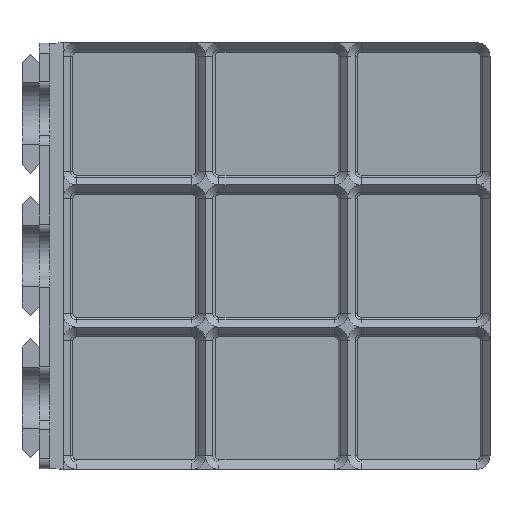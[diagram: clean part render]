
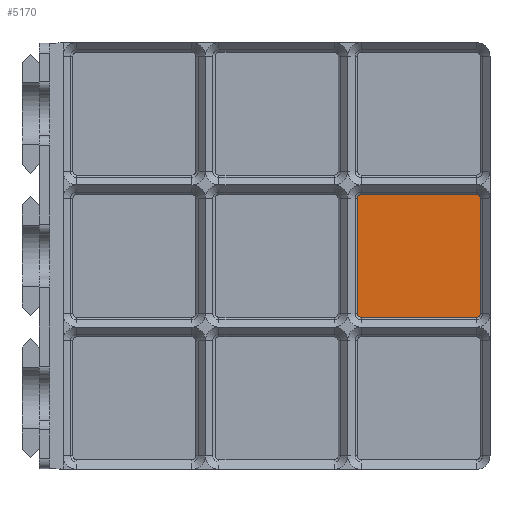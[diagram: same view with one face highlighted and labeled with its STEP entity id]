
A CAD part, top view. The second image highlights one B-rep face of the part: STEP entity #5170.
In plain terms, the highlighted planar face has unit normal (0, 0, 1).
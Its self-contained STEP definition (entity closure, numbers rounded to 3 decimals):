
#96=PLANE('',#5542);
#288=FACE_OUTER_BOUND('',#636,.T.);
#636=EDGE_LOOP('',(#3560,#3561,#3562,#3563,#3564,#3565,#3566,#3567));
#999=LINE('',#7835,#1564);
#1000=LINE('',#7839,#1565);
#1001=LINE('',#7843,#1566);
#1002=LINE('',#7846,#1567);
#1564=VECTOR('',#6144,10.);
#1565=VECTOR('',#6147,10.);
#1566=VECTOR('',#6150,10.);
#1567=VECTOR('',#6153,10.);
#2119=CIRCLE('',#5543,1.154);
#2120=CIRCLE('',#5544,1.154);
#2121=CIRCLE('',#5545,1.154);
#2122=CIRCLE('',#5546,1.154);
#2345=VERTEX_POINT('',#7831);
#2346=VERTEX_POINT('',#7832);
#2347=VERTEX_POINT('',#7834);
#2348=VERTEX_POINT('',#7836);
#2349=VERTEX_POINT('',#7838);
#2350=VERTEX_POINT('',#7840);
#2351=VERTEX_POINT('',#7842);
#2352=VERTEX_POINT('',#7844);
#2781=EDGE_CURVE('',#2345,#2346,#2119,.F.);
#2782=EDGE_CURVE('',#2346,#2347,#999,.F.);
#2783=EDGE_CURVE('',#2347,#2348,#2120,.F.);
#2784=EDGE_CURVE('',#2348,#2349,#1000,.F.);
#2785=EDGE_CURVE('',#2349,#2350,#2121,.F.);
#2786=EDGE_CURVE('',#2350,#2351,#1001,.F.);
#2787=EDGE_CURVE('',#2351,#2352,#2122,.F.);
#2788=EDGE_CURVE('',#2352,#2345,#1002,.F.);
#3560=ORIENTED_EDGE('',*,*,#2781,.T.);
#3561=ORIENTED_EDGE('',*,*,#2782,.T.);
#3562=ORIENTED_EDGE('',*,*,#2783,.T.);
#3563=ORIENTED_EDGE('',*,*,#2784,.T.);
#3564=ORIENTED_EDGE('',*,*,#2785,.T.);
#3565=ORIENTED_EDGE('',*,*,#2786,.T.);
#3566=ORIENTED_EDGE('',*,*,#2787,.T.);
#3567=ORIENTED_EDGE('',*,*,#2788,.T.);
#5170=ADVANCED_FACE('',(#288),#96,.F.);
#5542=AXIS2_PLACEMENT_3D('',#7830,#6140,#6141);
#5543=AXIS2_PLACEMENT_3D('',#7833,#6142,#6143);
#5544=AXIS2_PLACEMENT_3D('',#7837,#6145,#6146);
#5545=AXIS2_PLACEMENT_3D('',#7841,#6148,#6149);
#5546=AXIS2_PLACEMENT_3D('',#7845,#6151,#6152);
#6140=DIRECTION('center_axis',(0.,0.,
-1.));
#6141=DIRECTION('ref_axis',(1.,0.,0.));
#6142=DIRECTION('center_axis',(0.,0.,
-1.));
#6143=DIRECTION('ref_axis',(0.,-1.,0.));
#6144=DIRECTION('',(-1.,0.,0.));
#6145=DIRECTION('center_axis',(0.,0.,
-1.));
#6146=DIRECTION('ref_axis',(1.,0.,0.));
#6147=DIRECTION('',(0.,-1.,0.));
#6148=DIRECTION('center_axis',(0.,0.,
-1.));
#6149=DIRECTION('ref_axis',(0.,1.,0.));
#6150=DIRECTION('',(1.,0.,0.));
#6151=DIRECTION('center_axis',(0.,0.,
-1.));
#6152=DIRECTION('ref_axis',(-1.,0.,0.));
#6153=DIRECTION('',(0.,1.,0.));
#7830=CARTESIAN_POINT('Origin',(204.65,42.,-141.724));
#7831=CARTESIAN_POINT('',(189.996,25.,-141.724));
#7832=CARTESIAN_POINT('',(191.15,23.846,-141.724));
#7833=CARTESIAN_POINT('Origin',(191.15,25.,-141.724));
#7834=CARTESIAN_POINT('',(225.15,23.846,-141.724));
#7835=CARTESIAN_POINT('',(216.65,23.846,-141.724));
#7836=CARTESIAN_POINT('',(226.304,25.,-141.724));
#7837=CARTESIAN_POINT('Origin',(225.15,25.,-141.724));
#7838=CARTESIAN_POINT('',(226.304,59.,-141.724));
#7839=CARTESIAN_POINT('',(226.304,50.5,-141.724));
#7840=CARTESIAN_POINT('',(225.15,60.154,-141.724));
#7841=CARTESIAN_POINT('Origin',(225.15,59.,-141.724));
#7842=CARTESIAN_POINT('',(191.15,60.154,-141.724));
#7843=CARTESIAN_POINT('',(199.65,60.154,-141.724));
#7844=CARTESIAN_POINT('',(189.996,59.,-141.724));
#7845=CARTESIAN_POINT('Origin',(191.15,59.,-141.724));
#7846=CARTESIAN_POINT('',(189.996,42.,-141.724));
